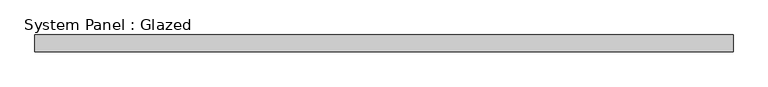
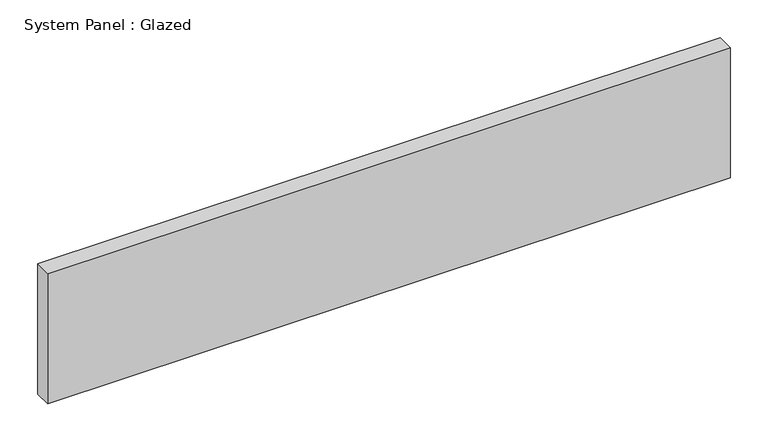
"""IFC4 building model written with IfcOpenShell, lengths in millimetres: plate geometry, System Panel : Glazed."""

import ifcopenshell
import ifcopenshell.guid

model = None  # the IFC model being written
_history = None  # IfcOwnerHistory: only IFC2X3 demands one
_inside = {}  # id of a spatial element -> (the spatial element, [elements in it])
_under = {}  # id of a project, library or spatial element -> (it, [spatial elements below it])
_declared = {}  # id of a project -> (the project, [libraries it declares])
_typed = {}  # id of a type object -> (the type object, [elements of that type])
_made_of = {}  # id of a material, layer set ... -> (it, [elements and type objects made of it])


def new_model(schema):
    """Start an empty IFC model of exactly this schema.

    Asked for "IFC4X3", IfcOpenShell would pick the latest addendum, in which some entities
    have other attributes; the version numbers below select the first issue.
    IFC2X3 requires an IfcOwnerHistory on every rooted entity: one is made here for all.
    """
    global model, _history
    if schema == "IFC4X3":
        model = ifcopenshell.file(schema_version=(4, 3, 0, 0))
    else:
        model = ifcopenshell.file(schema=schema)
    _inside.clear()
    _under.clear()
    _declared.clear()
    _typed.clear()
    _made_of.clear()
    _history = None
    if model.schema == "IFC2X3":
        org = make("IfcOrganization", Name="unknown")
        user = make(
            "IfcPersonAndOrganization",
            ThePerson=make("IfcPerson", FamilyName="unknown"),
            TheOrganization=org,
        )
        app = make(
            "IfcApplication",
            ApplicationDeveloper=org,
            Version="unknown",
            ApplicationFullName="unknown",
            ApplicationIdentifier="unknown",
        )
        _history = make(
            "IfcOwnerHistory",
            OwningUser=user,
            OwningApplication=app,
            ChangeAction="ADDED",
            CreationDate=0,
        )
    return model


def make(cls, **values):
    """One entity of the class cls with the attributes given. An attribute that is None is left unset."""
    return model.create_entity(
        cls, **{name: value for name, value in values.items() if value is not None}
    )


def rooted(cls, **values):
    """An entity with a GlobalId (a new one), such as an element, a storey or a relation."""
    return make(cls, GlobalId=ifcopenshell.guid.new(), OwnerHistory=_history, **values)


def si_unit(unit_type, name, prefix=None):
    """IfcSIUnit, for example si_unit("LENGTHUNIT", "METRE", prefix="MILLI")."""
    return make("IfcSIUnit", UnitType=unit_type, Prefix=prefix, Name=name)


def assignment(units):
    """IfcUnitAssignment: the units of a project."""
    return None if units is None else make("IfcUnitAssignment", Units=units)


def point(xyz):
    """IfcCartesianPoint."""
    return None if xyz is None else make("IfcCartesianPoint", Coordinates=xyz)


def direction(xyz):
    """IfcDirection."""
    return None if xyz is None else make("IfcDirection", DirectionRatios=xyz)


def frame(location, z_axis=None, x_axis=None):
    """IfcAxis2Placement3D, a coordinate frame: its origin and axes. An axis left out is left unset."""
    return make(
        "IfcAxis2Placement3D",
        Location=point(location),
        Axis=direction(z_axis),
        RefDirection=direction(x_axis),
    )


def origin():
    """The frame at (0, 0, 0) with its axes left unset."""
    return frame((0.0, 0.0, 0.0))


def origin_with_axes():
    """The frame at (0, 0, 0) with the z axis (0, 0, 1) and the x axis (1, 0, 0) written out."""
    return frame((0.0, 0.0, 0.0), z_axis=(0.0, 0.0, 1.0), x_axis=(1.0, 0.0, 0.0))


def place(relative_to, where):
    """IfcLocalPlacement: puts the frame where relative to a parent placement (None: the world)."""
    return make(
        "IfcLocalPlacement", PlacementRelTo=relative_to, RelativePlacement=where
    )


def context(
    kind, dimensions, precision=None, world=None, true_north=None, identifier=None
):
    """IfcGeometricRepresentationContext, for example the 3D "Model" context."""
    return make(
        "IfcGeometricRepresentationContext",
        ContextIdentifier=identifier,
        ContextType=kind,
        CoordinateSpaceDimension=dimensions,
        Precision=precision,
        WorldCoordinateSystem=world,
        TrueNorth=true_north,
    )


def project(units=None, contexts=None):
    """IfcProject with its units and contexts."""
    return rooted(
        "IfcProject",
        Name="project",
        RepresentationContexts=contexts,
        UnitsInContext=assignment(units),
    )


def spatial(cls, under=None, at=None, **own):
    """A site, building, storey or space (cls), placed at a placement, below another one or the project."""
    s = rooted(cls, ObjectPlacement=at, **own)
    if under is not None:
        _under.setdefault(under.id(), (under, []))[1].append(s)
    return s


def polyline(points):
    """IfcPolyline through the points."""
    return make("IfcPolyline", Points=[point(p) for p in points])


def outline(outer, holes=None, kind="AREA"):
    """IfcArbitraryClosedProfileDef: a profile drawn as a closed curve; with holes, ...WithVoids."""
    if holes is None:
        return make("IfcArbitraryClosedProfileDef", ProfileType=kind, OuterCurve=outer)
    return make(
        "IfcArbitraryProfileDefWithVoids",
        ProfileType=kind,
        OuterCurve=outer,
        InnerCurves=holes,
    )


def extrude(swept, where, along, depth):
    """IfcExtrudedAreaSolid: the profile swept, set in the frame where, extruded along a direction by depth."""
    return make(
        "IfcExtrudedAreaSolid",
        SweptArea=swept,
        Position=where,
        ExtrudedDirection=direction(along),
        Depth=depth,
    )


def shape(context_of_items, identifier, shape_type, items):
    """IfcShapeRepresentation: the items that make up one representation, for example the "Body"."""
    return make(
        "IfcShapeRepresentation",
        ContextOfItems=context_of_items,
        RepresentationIdentifier=identifier,
        RepresentationType=shape_type,
        Items=items,
    )


def source(mapping_origin, context_of_items, identifier, shape_type, items):
    """IfcRepresentationMap: a shape defined once, which mapped items show again and again."""
    return make(
        "IfcRepresentationMap",
        MappingOrigin=mapping_origin,
        MappedRepresentation=shape(context_of_items, identifier, shape_type, items),
    )


def transform(
    local_origin,
    x_axis=None,
    y_axis=None,
    z_axis=None,
    scale=None,
    scale2=None,
    scale3=None,
    uniform=True,
):
    """IfcCartesianTransformationOperator3D, or its non-uniform kind. x_axis, y_axis, z_axis: its Axis1, 2, 3."""
    if uniform:
        return make(
            "IfcCartesianTransformationOperator3D",
            Axis1=direction(x_axis),
            Axis2=direction(y_axis),
            LocalOrigin=point(local_origin),
            Scale=scale,
            Axis3=direction(z_axis),
        )
    return make(
        "IfcCartesianTransformationOperator3DnonUniform",
        Axis1=direction(x_axis),
        Axis2=direction(y_axis),
        LocalOrigin=point(local_origin),
        Scale=scale,
        Axis3=direction(z_axis),
        Scale2=scale2,
        Scale3=scale3,
    )


def mapped(mapping_source, mapping_target):
    """IfcMappedItem: shows the shape of a source again, moved by a transform."""
    return make(
        "IfcMappedItem", MappingSource=mapping_source, MappingTarget=mapping_target
    )


def made_of(thing, what):
    """Note that an element or type object is made of a material, layer set ...; save() writes the relation."""
    if what is not None:
        _made_of.setdefault(what.id(), (what, []))[1].append(thing)
    return thing


def element(
    cls,
    number,
    at=None,
    inside=None,
    cuts=None,
    type_object=None,
    material=None,
    context=None,
    identifier="Body",
    shape_type=None,
    held_by="IfcProductDefinitionShape",
    body=None,
    shapes=None,
    **own,
):
    """One element of the class cls, such as IfcWall. Its Tag is "e" and its number.

    at: its placement. inside: the storey or other place that contains it. cuts: it is an
    opening in that element (IfcRelVoidsElement). A single representation is given by context,
    identifier, shape_type and body (its items); several are given by shapes. held_by: the class
    of the entity that holds the representations. save() writes the other relations.
    """
    e = rooted(cls, Tag="e%d" % number, ObjectPlacement=at, **own)
    if body is not None:
        shapes = [shape(context, identifier, shape_type, body)]
    if shapes is not None:
        e.Representation = make(held_by, Representations=shapes)
    if inside is not None:
        _inside.setdefault(inside.id(), (inside, []))[1].append(e)
    if cuts is not None:
        rooted(
            "IfcRelVoidsElement", RelatingBuildingElement=cuts, RelatedOpeningElement=e
        )
    if type_object is not None:
        _typed.setdefault(type_object.id(), (type_object, []))[1].append(e)
    return made_of(e, material)


def aggregate(whole, parts):
    """IfcRelAggregates: a whole, such as a stair, and the parts it consists of."""
    return rooted("IfcRelAggregates", RelatingObject=whole, RelatedObjects=parts)


def save(model, path):
    """Write the relations noted so far, then the file.

    IfcRelAggregates (storeys below a building ...), IfcRelContainedInSpatialStructure (elements
    in a storey), IfcRelDefinesByType, IfcRelAssociatesMaterial and IfcRelDeclares: one each for
    every whole, place, type object, material and project.
    """
    for whole, parts in _under.values():
        aggregate(whole, parts)
    for where, things in _inside.values():
        rooted(
            "IfcRelContainedInSpatialStructure",
            RelatedElements=things,
            RelatingStructure=where,
        )
    for kind, things in _typed.values():
        rooted("IfcRelDefinesByType", RelatedObjects=things, RelatingType=kind)
    for what, things in _made_of.values():
        rooted("IfcRelAssociatesMaterial", RelatedObjects=things, RelatingMaterial=what)
    for by, libraries in _declared.values():
        rooted("IfcRelDeclares", RelatingContext=by, RelatedDefinitions=libraries)
    model.write(path)


def system_panel_glazed_4e6e4b53(model_context):
    return source(origin(), model_context, "Body", "SweptSolid", [
        extrude(outline(polyline([(519.3392857, 19.05), (-519.3392857, 19.05), (-519.3392857, 44.45), (519.3392857, 44.45), (519.3392857, 19.05)])), origin_with_axes(), (0.0, 0.0, 1.0), 209.55),
    ])


if __name__ == "__main__":
    model = new_model("IFC4")
    model_context = context("Model", 3, world=origin())
    ifc_project = project(units=[si_unit("LENGTHUNIT", "METRE", prefix="MILLI")], contexts=[model_context])
    site = spatial("IfcSite", under=ifc_project)
    building = spatial("IfcBuilding", under=site)
    placement = place(None, origin())
    system_panel_glazed_shape = system_panel_glazed_4e6e4b53(model_context)
    element("IfcPlate", 1, ObjectType="System Panel : Glazed", at=placement, inside=building, context=model_context, shape_type="MappedRepresentation", body=[
        mapped(system_panel_glazed_shape, transform((0.0, 0.0, 0.0), x_axis=(1.0, 0.0, 0.0), y_axis=(0.0, 1.0, 0.0), z_axis=(0.0, 0.0, 1.0))),
    ])
    save(model, "model.ifc")
